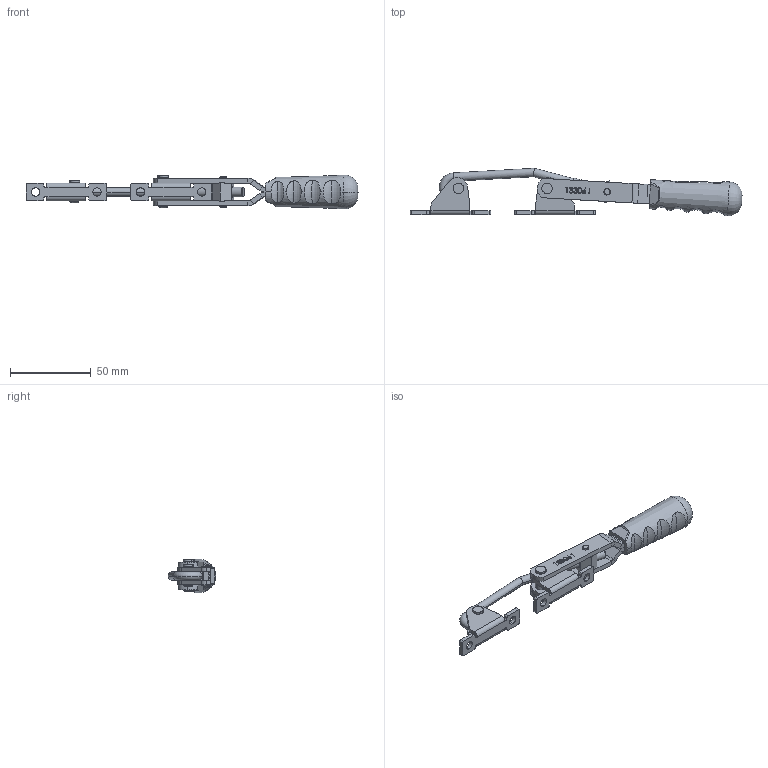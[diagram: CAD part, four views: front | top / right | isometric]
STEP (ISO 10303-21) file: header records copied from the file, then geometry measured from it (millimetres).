
FILE_DESCRIPTION (( 'STEP AP203' ), '1' );
FILE_NAME ('13306_I.STEP', '2022-12-02T06:04:06', ( '' ), ( '' ), 'SwSTEP 2.0', 'SolidWorks 2023', '' );
FILE_SCHEMA (( 'CONFIG_CONTROL_DESIGN' ));
Length unit declared in the file: millimetre
Products named in the file (10): 1351C_Pim_4x21_Varsayılan; 1351C_Pim_4x15_Varsayılan; 1351C_Burc_7x4x6_5_Varsayılan; 1351_Kanca Tutucu_Varsayılan; 1351_Hareket Kolu_Varsayılan; 13306_I; 1351_UC_Gövde_Varsayılan; C55_T(YENİ_TUTAMAK)_Varsayılan; 1351C_Kanca_Varsayılan
Assembly tree (11 placements, depth 2):
  13306_I
    1351_UC_Gövde_Varsayılan  x2
    1351_Hareket Kolu_Varsayılan
    1351_Hareket Kolu_Varsayılan
    1351C_Burc_7x4x6_5_Varsayılan  x2
    1351C_Pim_4x15_Varsayılan
    1351C_Pim_4x21_Varsayılan
    1351_Kanca Tutucu_Varsayılan
    1351C_Kanca_Varsayılan
    C55_T(YENİ_TUTAMAK)_Varsayılan
Bounding box: 205.88 x 29.41 x 20.98 mm (x, y, z)
Volume: 31946.7 mm3; surface area: 23281.8 mm2
Topology: 11 solids, 11 shells, 712 faces, 1835 edges, 1178 vertices
Faces by surface type: plane 383, cylinder 171, bspline 110, cone 24, torus 24
Entity records: 25933 total; most frequent: CARTESIAN_POINT 10175, ORIENTED_EDGE 3214, DIRECTION 2725, EDGE_CURVE 1607, VERTEX_POINT 1034, VECTOR 1025, LINE 1025, AXIS2_PLACEMENT_3D 850
